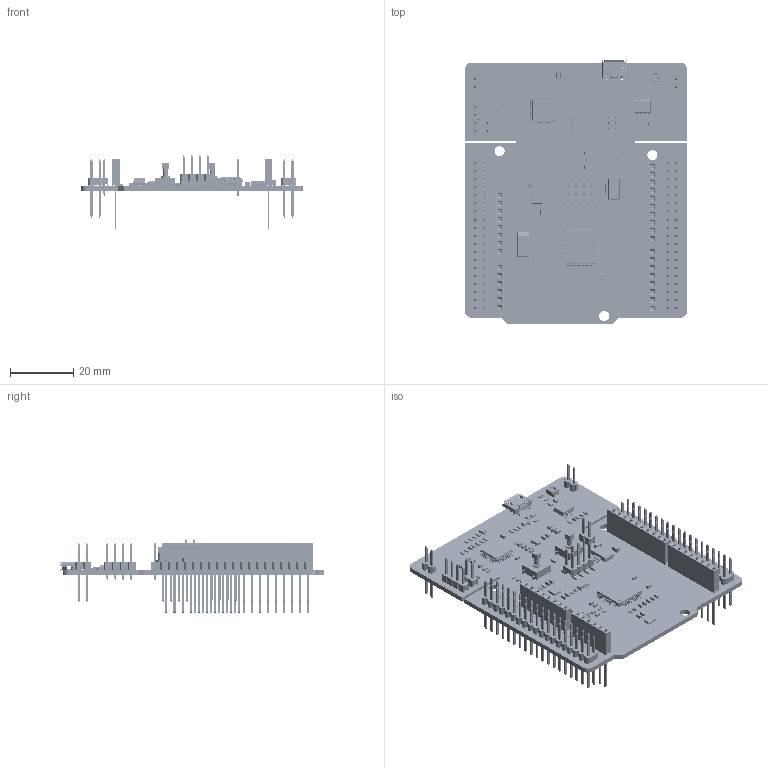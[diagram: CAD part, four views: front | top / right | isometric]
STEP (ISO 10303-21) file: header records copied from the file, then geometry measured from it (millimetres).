
FILE_DESCRIPTION(('Open CASCADE Model'),'2;1');
FILE_NAME('Open CASCADE Shape Model','2017-10-06T13:08:24',('Author'),( 'Open CASCADE'),'Open CASCADE STEP processor 6.8','Open CASCADE 6.8' ,'Unknown');
FILE_SCHEMA(('AUTOMOTIVE_DESIGN { 1 0 10303 214 1 1 1 1 }'));
Length unit declared in the file: millimetre
Products named in the file (209): PCB; Board; U7; 1071111104; Open_CASCADE_STEP_translator_6.8_1.1; Body; Open_CASCADE_STEP_translator_6.8_1.2.1; Thermal_Shape; Pin_Shape; 1071113792; Open_CASCADE_STEP_translator_6.8_2.1; Open_CASCADE_STEP_translator_6.8_2.2.1; Leader; X3; User_Library-User_Library-Siward_SX3225; X1; B2; 19990; B1; U2; User_Library-dfn6_3x3_rm0_95; JP2; pin_header_a-sl254-dg-g08mp1; D1; User_Library-SOD323-1; CN2; pin_header_aw140-eg-g04b; U3; User_Library-LQFP64-1; U6; SW3dPS-SOT-666; U4; User_Library-SOT23-5-5; User_Library-SOT23-5-5_SOT23-5_BODY; User_Library-SOT23-5-5_SOT23_LEG; U1; User_Library-lqfp48-1; R23; R0603; R13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
Assembly tree (305 placements, depth 5):
  PCB
    Board
    U7
      1071111104
        Open_CASCADE_STEP_translator_6.8_1.1
        Body
          Open_CASCADE_STEP_translator_6.8_1.2.1
        Thermal_Shape
        Pin_Shape  x8
      1071113792
        Open_CASCADE_STEP_translator_6.8_2.1
        Body
          Open_CASCADE_STEP_translator_6.8_2.2.1
        Leader  x8
    X3
      User_Library-User_Library-Siward_SX3225
    X1
      User_Library-User_Library-Siward_SX3225
    B2
      19990
    B1
      19990
    U2
      User_Library-dfn6_3x3_rm0_95
    JP2
      pin_header_a-sl254-dg-g08mp1
    D1
      User_Library-SOD323-1
    CN2
      pin_header_aw140-eg-g04b
    U3
      User_Library-LQFP64-1
    U6
      SW3dPS-SOT-666
    U4
      User_Library-SOT23-5-5
        User_Library-SOT23-5-5_SOT23-5_BODY
        User_Library-SOT23-5-5_SOT23_LEG  x5
    U1
      User_Library-lqfp48-1
    R23
      R0603
    R13
      R0603
    R20
      R0603
    R14
      R0603
    R6
      R0603
    R5
      R0603
    R10
      R0603
    R24
      R0603
    R25
      R0603
    R26
      R0603
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Bounding box: 70.13 x 83.48 x 23.32 mm (x, y, z)
Volume: 12758.3 mm3; surface area: 25737.8 mm2
Topology: 277 solids, 1243 shells, 13042 faces, 35369 edges, 24139 vertices
Faces by surface type: plane 7978, bspline 3269, cylinder 1725, sphere 42, torus 24, cone 4
Full cylindrical faces by diameter (mm): 0.381 x1, 0.5 x1, 0.95 x88, 1.02 x32, 3.2 x3
Entity records: 270365 total; most frequent: CARTESIAN_POINT 68066, ORIENTED_EDGE 34758, DIRECTION 33531, EDGE_CURVE 19845, LINE 16575, VECTOR 16575, VERTEX_POINT 14483, AXIS2_PLACEMENT_3D 8478
